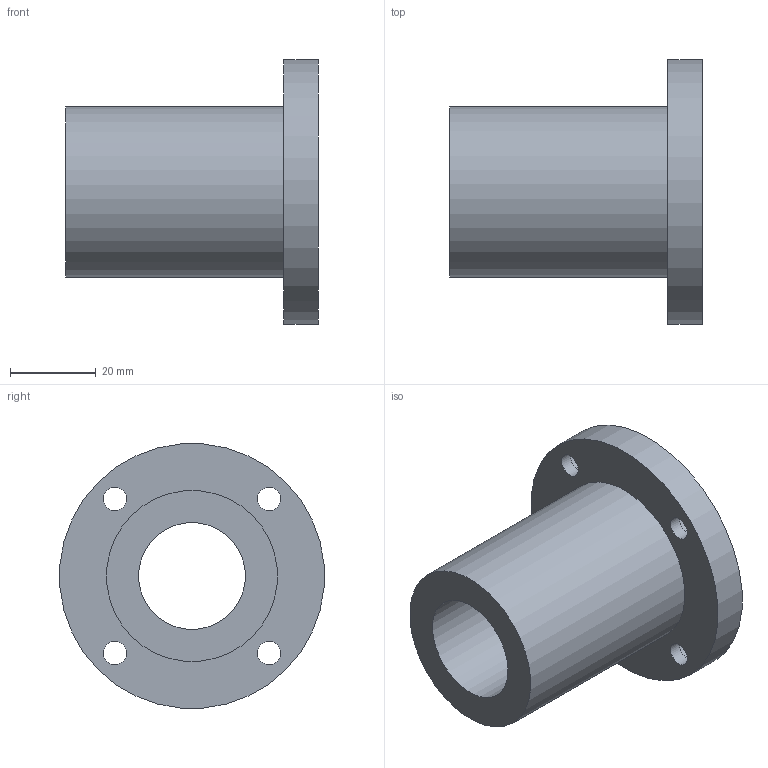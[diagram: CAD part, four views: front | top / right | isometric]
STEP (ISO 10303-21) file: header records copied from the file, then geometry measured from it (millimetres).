
FILE_DESCRIPTION(/* description */ (''),/* implementation_level */ '2;1');
FILE_NAME(/* name */ 'LMF25UU',/* time_stamp */ '2019-07-03T09:08:19+02:00',/* author */ ('VĂ©gh MĂˇtĂ©'),/* organization */ ('Bearing Kft'),/* preprocessor_version */ 'ST-DEVELOPER v16.7',/* originating_system */ 'DEX',/* authorisation */ $);
FILE_SCHEMA (('AUTOMOTIVE_DESIGN {1 0 10303 214 3 1 1}'));
Length unit declared in the file: millimetre
Products named in the file (1): LMF25UU
Bounding box: 59 x 61.76 x 61.76 mm (x, y, z)
Volume: 57700.5 mm3; surface area: 18272.4 mm2
Topology: 1 solids, 1 shells, 321 faces, 807 edges, 538 vertices
Faces by surface type: plane 249, bspline 59, cylinder 13
Full cylindrical faces by diameter (mm): 5.5 x4, 9 x4, 25 x1, 40 x1, 62 x1
Entity records: 12497 total; most frequent: CARTESIAN_POINT 5148, ORIENTED_EDGE 1590, DIRECTION 1229, EDGE_CURVE 795, LINE 651, VECTOR 651, VERTEX_POINT 538, EDGE_LOOP 393
